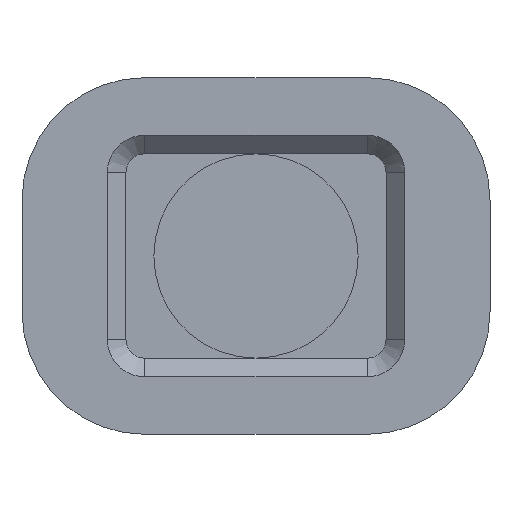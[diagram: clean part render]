
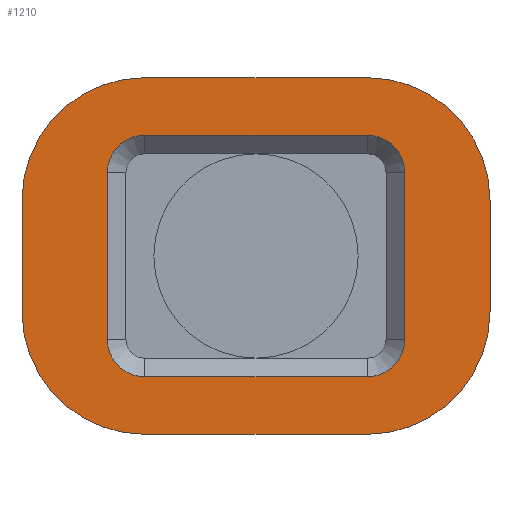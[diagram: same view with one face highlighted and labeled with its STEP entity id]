
A CAD part, front view. The second image highlights one B-rep face of the part: STEP entity #1210.
In plain terms, the highlighted planar face has unit normal (0, -1, 0).
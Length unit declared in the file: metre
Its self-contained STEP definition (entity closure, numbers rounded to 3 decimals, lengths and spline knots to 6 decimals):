
#76=CIRCLE('',#1318,0.0033);
#77=CIRCLE('',#1321,0.0033);
#78=CIRCLE('',#1324,0.0033);
#79=CIRCLE('',#1326,0.0033);
#80=CIRCLE('',#1329,0.001);
#81=CIRCLE('',#1330,0.001);
#82=CIRCLE('',#1331,0.001);
#83=CIRCLE('',#1332,0.001);
#202=ORIENTED_EDGE('',*,*,#548,.F.);
#203=ORIENTED_EDGE('',*,*,#549,.F.);
#204=ORIENTED_EDGE('',*,*,#550,.T.);
#205=ORIENTED_EDGE('',*,*,#551,.F.);
#206=ORIENTED_EDGE('',*,*,#552,.T.);
#207=ORIENTED_EDGE('',*,*,#553,.F.);
#208=ORIENTED_EDGE('',*,*,#554,.F.);
#209=ORIENTED_EDGE('',*,*,#555,.F.);
#210=ORIENTED_EDGE('',*,*,#545,.F.);
#211=ORIENTED_EDGE('',*,*,#532,.T.);
#212=ORIENTED_EDGE('',*,*,#536,.F.);
#213=ORIENTED_EDGE('',*,*,#537,.T.);
#214=ORIENTED_EDGE('',*,*,#540,.F.);
#215=ORIENTED_EDGE('',*,*,#542,.F.);
#216=ORIENTED_EDGE('',*,*,#544,.F.);
#217=ORIENTED_EDGE('',*,*,#547,.F.);
#532=EDGE_CURVE('',#713,#714,#801,.T.);
#536=EDGE_CURVE('',#715,#714,#76,.F.);
#537=EDGE_CURVE('',#715,#716,#805,.T.);
#540=EDGE_CURVE('',#717,#716,#77,.F.);
#542=EDGE_CURVE('',#718,#717,#809,.T.);
#544=EDGE_CURVE('',#719,#718,#78,.F.);
#545=EDGE_CURVE('',#713,#720,#79,.F.);
#547=EDGE_CURVE('',#720,#719,#812,.T.);
#548=EDGE_CURVE('',#721,#722,#813,.T.);
#549=EDGE_CURVE('',#723,#721,#80,.T.);
#550=EDGE_CURVE('',#723,#724,#814,.T.);
#551=EDGE_CURVE('',#725,#724,#81,.T.);
#552=EDGE_CURVE('',#725,#726,#815,.T.);
#553=EDGE_CURVE('',#727,#726,#82,.T.);
#554=EDGE_CURVE('',#728,#727,#816,.T.);
#555=EDGE_CURVE('',#722,#728,#83,.T.);
#713=VERTEX_POINT('',#1939);
#714=VERTEX_POINT('',#1940);
#715=VERTEX_POINT('',#1945);
#716=VERTEX_POINT('',#1949);
#717=VERTEX_POINT('',#1953);
#718=VERTEX_POINT('',#1957);
#719=VERTEX_POINT('',#1961);
#720=VERTEX_POINT('',#1965);
#721=VERTEX_POINT('',#1971);
#722=VERTEX_POINT('',#1972);
#723=VERTEX_POINT('',#1974);
#724=VERTEX_POINT('',#1976);
#725=VERTEX_POINT('',#1978);
#726=VERTEX_POINT('',#1980);
#727=VERTEX_POINT('',#1982);
#728=VERTEX_POINT('',#1984);
#801=LINE('',#1938,#915);
#805=LINE('',#1948,#919);
#809=LINE('',#1958,#923);
#812=LINE('',#1968,#926);
#813=LINE('',#1970,#927);
#814=LINE('',#1975,#928);
#815=LINE('',#1979,#929);
#816=LINE('',#1983,#930);
#915=VECTOR('',#1518,1.);
#919=VECTOR('',#1528,1.);
#923=VECTOR('',#1538,1.);
#926=VECTOR('',#1551,1.);
#927=VECTOR('',#1554,1.);
#928=VECTOR('',#1557,1.);
#929=VECTOR('',#1560,1.);
#930=VECTOR('',#1563,1.);
#1017=EDGE_LOOP('',(#202,#203,#204,#205,#206,#207,#208,#209));
#1018=EDGE_LOOP('',(#210,#211,#212,#213,#214,#215,#216,#217));
#1097=FACE_BOUND('',#1017,.T.);
#1098=FACE_BOUND('',#1018,.T.);
#1169=PLANE('',#1328);
#1210=ADVANCED_FACE('',(#1097,#1098),#1169,.T.);
#1318=AXIS2_PLACEMENT_3D('',#1946,#1524,#1525);
#1321=AXIS2_PLACEMENT_3D('',#1954,#1533,#1534);
#1324=AXIS2_PLACEMENT_3D('',#1962,#1542,#1543);
#1326=AXIS2_PLACEMENT_3D('',#1964,#1546,#1547);
#1328=AXIS2_PLACEMENT_3D('',#1969,#1552,#1553);
#1329=AXIS2_PLACEMENT_3D('',#1973,#1555,#1556);
#1330=AXIS2_PLACEMENT_3D('',#1977,#1558,#1559);
#1331=AXIS2_PLACEMENT_3D('',#1981,#1561,#1562);
#1332=AXIS2_PLACEMENT_3D('',#1985,#1564,#1565);
#1518=DIRECTION('',(-1.,0.,0.));
#1524=DIRECTION('',(0.,-1.,0.));
#1525=DIRECTION('',(0.,0.,-1.));
#1528=DIRECTION('',(0.,0.,-1.));
#1533=DIRECTION('',(0.,-1.,0.));
#1534=DIRECTION('',(0.,0.,-1.));
#1538=DIRECTION('',(-1.,0.,0.));
#1542=DIRECTION('',(0.,-1.,0.));
#1543=DIRECTION('',(0.,0.,-1.));
#1546=DIRECTION('',(0.,-1.,0.));
#1547=DIRECTION('',(0.,0.,-1.));
#1551=DIRECTION('',(0.,0.,-1.));
#1552=DIRECTION('',(0.,-1.,0.));
#1553=DIRECTION('',(1.,0.,0.));
#1554=DIRECTION('',(0.,0.,-1.));
#1555=DIRECTION('',(0.,-1.,0.));
#1556=DIRECTION('',(0.,0.,-1.));
#1557=DIRECTION('',(1.,0.,0.));
#1558=DIRECTION('',(0.,-1.,0.));
#1559=DIRECTION('',(0.,0.,-1.));
#1560=DIRECTION('',(0.,0.,-1.));
#1561=DIRECTION('',(0.,-1.,0.));
#1562=DIRECTION('',(0.,0.,-1.));
#1563=DIRECTION('',(1.,0.,0.));
#1564=DIRECTION('',(0.,-1.,0.));
#1565=DIRECTION('',(0.,0.,-1.));
#1938=CARTESIAN_POINT('',(-0.096875,0.0062,-0.006205));
#1939=CARTESIAN_POINT('',(-0.093875,0.0062,-0.006205));
#1940=CARTESIAN_POINT('',(-0.099875,0.0062,-0.006205));
#1945=CARTESIAN_POINT('',(-0.103175,0.0062,-0.009505));
#1946=CARTESIAN_POINT('',(-0.099875,0.0062,-0.009505));
#1948=CARTESIAN_POINT('',(-0.103175,0.0062,-0.011005));
#1949=CARTESIAN_POINT('',(-0.103175,0.0062,-0.012505));
#1953=CARTESIAN_POINT('',(-0.099875,0.0062,-0.015805));
#1954=CARTESIAN_POINT('',(-0.099875,0.0062,-0.012505));
#1957=CARTESIAN_POINT('',(-0.093875,0.0062,-0.015805));
#1958=CARTESIAN_POINT('',(-0.096875,0.0062,-0.015805));
#1961=CARTESIAN_POINT('',(-0.090575,0.0062,-0.012505));
#1962=CARTESIAN_POINT('',(-0.093875,0.0062,-0.012505));
#1964=CARTESIAN_POINT('',(-0.093875,0.0062,-0.009505));
#1965=CARTESIAN_POINT('',(-0.090575,0.0062,-0.009505));
#1968=CARTESIAN_POINT('',(-0.090575,0.0062,-0.011005));
#1969=CARTESIAN_POINT('',(0.,0.0062,0.));
#1970=CARTESIAN_POINT('',(-0.100875,0.0062,-0.011005));
#1971=CARTESIAN_POINT('',(-0.100875,0.0062,-0.008755));
#1972=CARTESIAN_POINT('',(-0.100875,0.0062,-0.013255));
#1973=CARTESIAN_POINT('',(-0.099875,0.0062,-0.008755));
#1974=CARTESIAN_POINT('',(-0.099875,0.0062,-0.007755));
#1975=CARTESIAN_POINT('',(-0.096875,0.0062,-0.007755));
#1976=CARTESIAN_POINT('',(-0.093875,0.0062,-0.007755));
#1977=CARTESIAN_POINT('',(-0.093875,0.0062,-0.008755));
#1978=CARTESIAN_POINT('',(-0.092875,0.0062,-0.008755));
#1979=CARTESIAN_POINT('',(-0.092875,0.0062,-0.011005));
#1980=CARTESIAN_POINT('',(-0.092875,0.0062,-0.013255));
#1981=CARTESIAN_POINT('',(-0.093875,0.0062,-0.013255));
#1982=CARTESIAN_POINT('',(-0.093875,0.0062,-0.014255));
#1983=CARTESIAN_POINT('',(-0.096875,0.0062,-0.014255));
#1984=CARTESIAN_POINT('',(-0.099875,0.0062,-0.014255));
#1985=CARTESIAN_POINT('',(-0.099875,0.0062,-0.013255));
